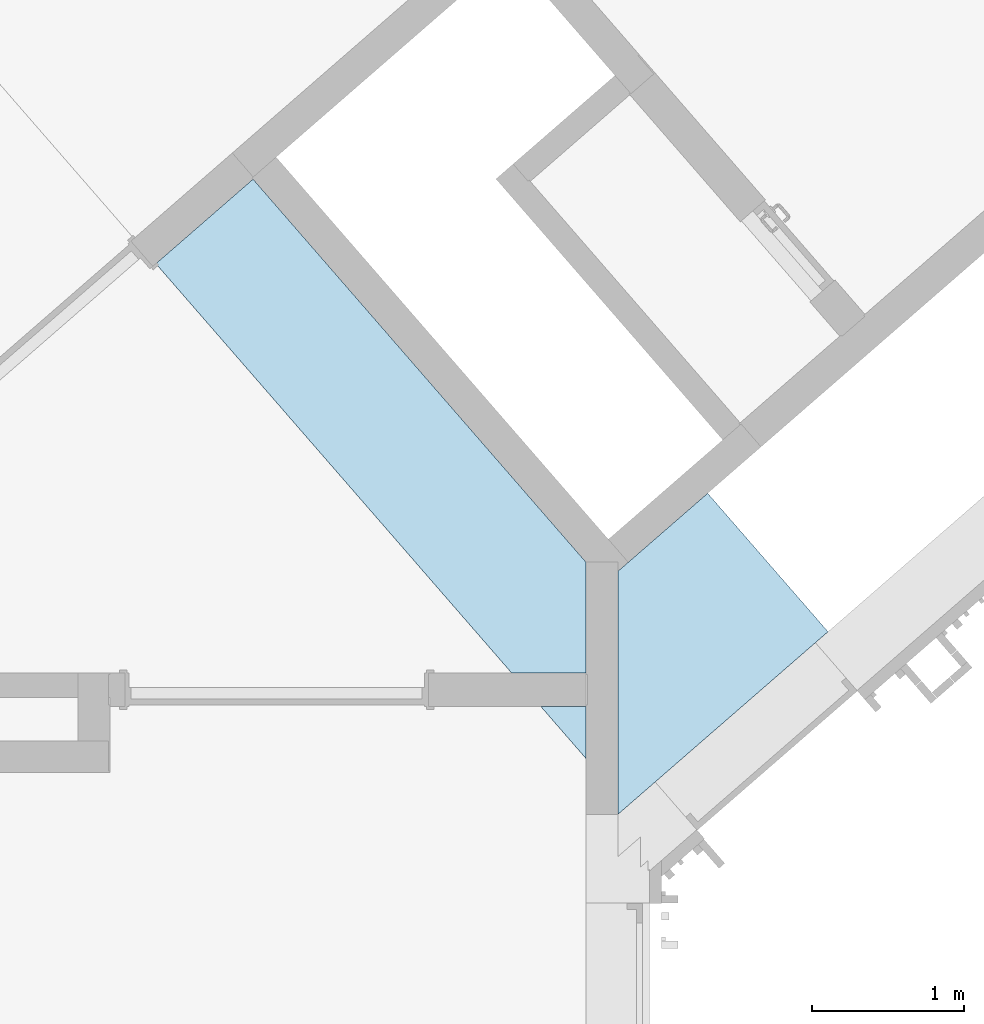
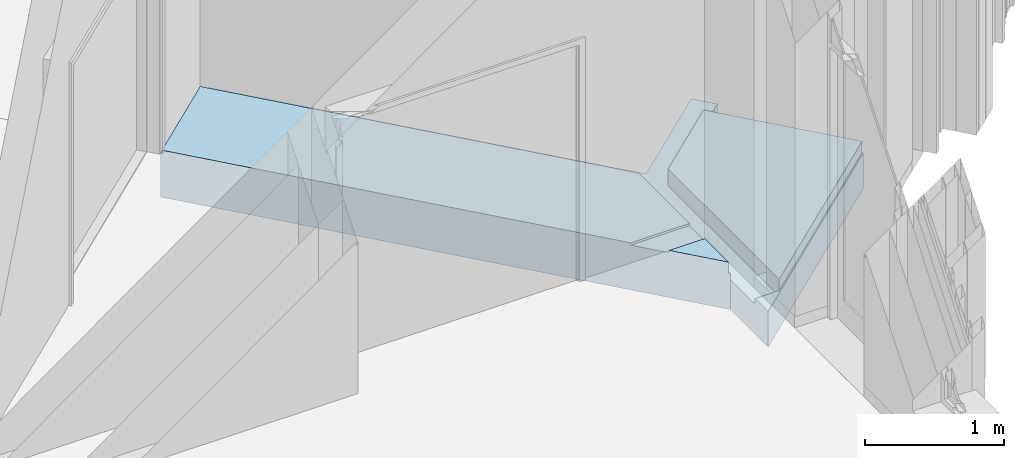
# One storey, part 79 of 390: 1 slab.
"""IFC2X3 building model written with IfcOpenShell, lengths in millimetres."""

from ifc_helpers import new_model, entity, si_unit, converted_unit, derived_unit, money_unit, direction, frame, origin_with_axes, place, context, subcontext, project, spatial, faceted_brep, material, material_list, type_object, element, save


model = new_model("IFC2X3")

# Units and contexts
model_context = context("Model", 3, precision=1e-05, world=origin_with_axes(), true_north=direction((0.0, 1.0)))
body_context = subcontext(model_context, "Body", "Model", "MODEL_VIEW")
ifc_project = project(units=[si_unit("LENGTHUNIT", "METRE", prefix="MILLI"), si_unit("AREAUNIT", "SQUARE_METRE"), si_unit("VOLUMEUNIT", "CUBIC_METRE"), converted_unit("PLANEANGLEUNIT", "DEGREE", entity("IfcPlaneAngleMeasure", 0.0174532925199), si_unit("PLANEANGLEUNIT", "RADIAN"), dimensions=[0, 0, 0, 0, 0, 0, 0]), si_unit("SOLIDANGLEUNIT", "STERADIAN"), money_unit("EUR"), converted_unit("TIMEUNIT", "Year", entity("IfcTimeMeasure", 31556926.0), si_unit("TIMEUNIT", "SECOND"), dimensions=[0, 0, 1, 0, 0, 0, 0]), si_unit("MASSUNIT", "GRAM", prefix="KILO"), si_unit("THERMODYNAMICTEMPERATUREUNIT", "DEGREE_CELSIUS"), si_unit("LUMINOUSINTENSITYUNIT", "LUMEN"), si_unit("ENERGYUNIT", "JOULE", prefix="MEGA"), derived_unit("THERMALCONDUCTANCEUNIT", [(si_unit("POWERUNIT", "WATT"), 1), (si_unit("LENGTHUNIT", "METRE"), -1), (si_unit("THERMODYNAMICTEMPERATUREUNIT", "KELVIN"), -1)]), derived_unit("SPECIFICHEATCAPACITYUNIT", [(si_unit("ENERGYUNIT", "JOULE"), 1), (si_unit("MASSUNIT", "GRAM", prefix="KILO"), -1), (si_unit("THERMODYNAMICTEMPERATUREUNIT", "KELVIN"), -1)]), derived_unit("MASSDENSITYUNIT", [(si_unit("MASSUNIT", "GRAM", prefix="KILO"), 1), (si_unit("VOLUMEUNIT", "CUBIC_METRE"), -1)])], contexts=[model_context])

# Site, building, storey
site_placement = place(None, origin_with_axes())
site = spatial("IfcSite", under=ifc_project, at=site_placement, Name="Site", CompositionType="ELEMENT")
building_placement = place(site_placement, origin_with_axes())
building = spatial("IfcBuilding", under=site, at=building_placement, Name="Building", CompositionType="ELEMENT")
storey_placement = place(building_placement, origin_with_axes())
storey = spatial("IfcBuildingStorey", under=building, at=storey_placement, Name="1 korrus", CompositionType="ELEMENT", Elevation=0.0)

# Slab
ifc_material_1 = material(Name="Puit - Põrand")
ifc_material_2 = material(Name="Betoon")
ifc_material_3 = material(Name="00_mineraalvillaplaat - jäik")
ifc_material_4 = material(Name="Soojustus - Plastik Kõva")
ifc_material_5 = material(Name="Raudbetoon - Konstruktsioon")
ifc_material_list = material_list([ifc_material_1, ifc_material_1, ifc_material_1, ifc_material_2, ifc_material_2, ifc_material_3, ifc_material_3, ifc_material_4, ifc_material_4, ifc_material_5])
slab_type = type_object("IfcSlabType", Name="VL-01", PredefinedType="FLOOR")
slab_placement = place(storey_placement, frame((136446.919916, 70227.5830388, 0.0), z_axis=(0.0, 0.0, 1.0), x_axis=(1.0, 0.0, 0.0)))
element("IfcSlab", 1, at=slab_placement, inside=storey, type_object=slab_type, material=ifc_material_list, Name="VL-01", PredefinedType="FLOOR", context=body_context, shape_type="Brep", body=[
    faceted_brep([(2843.07920907, -2927.40806166, -20.0), (2843.07920907, -2927.40806166, 0.0), (2843.07954199, -3270.58888407, 0.0), (2843.07954192, -3270.588884, -20.0), (2544.75700437, -2927.40806166, 0.0), (2544.75700437, -2927.40806166, -20.0)], [[[0, 1, 2, 3]], [[4, 1, 0, 5]], [[1, 4, 2]], [[4, 5, 3, 2]], [[5, 0, 3]]]),
    faceted_brep([(4356.26905452, -2506.96594326, 0.0), (4439.42658322, -2434.67829507, 0.0), (3645.5945413, -1521.47899265, 0.0), (3122.1126186, -1976.53488561, 0.0), (3053.07834611, -2036.54546315, 0.0), (3053.080466, -3639.80911052, 0.0), (3299.67504126, -3425.44797957, 0.0), (4439.42658322, -2434.67829507, -20.0), (3053.080466, -3639.80911052, -20.0), (3645.5945413, -1521.47899265, -20.0), (3122.1126186, -1976.53488561, -20.0), (3053.07834611, -2036.54546315, -20.0)], [[[0, 1, 2, 3, 4, 5, 6]], [[7, 1, 0, 6, 5, 8]], [[1, 7, 9, 2]], [[3, 2, 9, 10]], [[3, 10, 11, 4]], [[8, 5, 4, 11]], [[7, 8, 11, 10, 9]]]),
    faceted_brep([(647.735238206, 549.817535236, -20.0), (647.735238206, 549.817535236, 0.0), (2843.0782871, -1975.63575438, 0.0), (2843.0782871, -1975.63575438, -20.0), (6.56058390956, -7.54708846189, 0.0), (6.56058390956, -7.54708846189, -20.0), (2353.51392203, -2707.40806166, 0.0), (2843.07899596, -2707.40806166, 0.0), (2843.07899596, -2707.40806166, -20.0), (2353.51392203, -2707.40806166, -20.0)], [[[0, 1, 2, 3]], [[4, 1, 0, 5]], [[1, 4, 6, 7, 2]], [[7, 8, 3, 2]], [[5, 0, 3, 8, 9]], [[4, 5, 9, 6]], [[8, 7, 6, 9]]]),
    faceted_brep([(2843.07922025, -2917.40806166, -20.0), (2843.07902651, -2717.40806166, -20.0), (2843.0782871, -1975.63575438, -20.0), (641.174647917, 557.364631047, -20.0), (0.0, 0.0, -20.0), (2843.07954192, -3270.588884, -20.0), (2843.07954166, -3270.5888837, -100.0), (2843.0782871, -1975.63575438, -100.0), (641.174647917, 557.364631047, -100.0), (0.0, 0.0, -100.0)], [[[0, 1, 2, 3, 4, 5]], [[2, 1, 0, 5, 6, 7]], [[2, 7, 8, 3]], [[3, 8, 9, 4]], [[6, 5, 4, 9]], [[7, 6, 9, 8]]]),
    faceted_brep([(4439.42658322, -2434.67829507, -20.0), (3645.5945413, -1521.47899265, -20.0), (3122.1126186, -1976.53488561, -20.0), (3053.07834611, -2036.54546315, -20.0), (3053.080466, -3639.80911052, -20.0), (4439.42658322, -2434.67829507, -100.0), (3645.5945413, -1521.47899265, -100.0), (3122.1126186, -1976.53488561, -100.0), (3053.07834611, -2036.54546315, -100.0), (3053.080466, -3639.80911052, -100.0)], [[[0, 1, 2, 3, 4]], [[0, 5, 6, 1]], [[2, 1, 6, 7]], [[2, 7, 8, 3]], [[9, 4, 3, 8]], [[5, 0, 4, 9]], [[5, 9, 8, 7, 6]]]),
    faceted_brep([(2853.07955208, -3282.09257975, -100.0), (2853.0782871, -1975.63574469, -100.0), (2856.32840604, -1975.63574154, -100.0), (648.721743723, 563.925221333, -100.0), (0.0, 0.0, -100.0), (2853.07955221, -3282.0925799, -130.0), (2853.0782871, -1975.63574469, -130.0), (2856.32840604, -1975.63574154, -130.0), (648.721743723, 563.925221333, -130.0), (0.0, 0.0, -130.0)], [[[0, 1, 2, 3, 4]], [[1, 0, 5, 6]], [[7, 2, 1, 6]], [[2, 7, 8, 3]], [[3, 8, 9, 4]], [[5, 0, 4, 9]], [[6, 5, 9, 8, 7]]]),
    faceted_brep([(3645.5945413, -1521.47899265, -130.0), (3645.5945413, -1521.47899265, -100.0), (4445.98655504, -2442.22467941, -100.0), (4445.98655504, -2442.22467941, -130.0), (3122.1126186, -1976.53488561, -100.0), (3122.1126186, -1976.53488561, -130.0), (3053.07834611, -2036.54546315, -100.0), (3053.07989915, -3639.80960327, -99.9999991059), (2853.07989871, -3639.80979701, -99.9999991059), (2853.0800804, -3826.91715967, -100.0), (2853.0800804, -3826.91715967, -130.0), (2853.07989871, -3639.80979701, -130.0), (3053.07989915, -3639.80960327, -130.0), (3053.07834611, -2036.54546315, -130.0)], [[[0, 1, 2, 3]], [[4, 1, 0, 5]], [[1, 4, 6, 7, 8, 9, 2]], [[10, 3, 2, 9]], [[5, 0, 3, 10, 11, 12, 13]], [[4, 5, 13, 6]], [[6, 13, 12, 7]], [[8, 7, 12, 11]], [[8, 11, 10, 9]]]),
    faceted_brep([(2853.07955221, -3282.0925799, -130.0), (2853.0782871, -1975.63574469, -130.0), (2856.32840604, -1975.63574154, -130.0), (648.721743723, 563.925221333, -130.0), (0.0, 0.0, -130.0), (2853.07955229, -3282.09257999, -150.0), (2853.0782871, -1975.63574469, -150.0), (2856.32840604, -1975.63574154, -150.0), (648.721743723, 563.925221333, -150.0), (0.0, 0.0, -150.0)], [[[0, 1, 2, 3, 4]], [[1, 0, 5, 6]], [[7, 2, 1, 6]], [[2, 7, 8, 3]], [[3, 8, 9, 4]], [[5, 0, 4, 9]], [[6, 5, 9, 8, 7]]]),
    faceted_brep([(3645.5945413, -1521.47899265, -150.0), (3645.5945413, -1521.47899265, -130.0), (4445.98655504, -2442.22467941, -130.0), (4445.98655504, -2442.22467941, -150.0), (3122.1126186, -1976.53488561, -130.0), (3122.1126186, -1976.53488561, -150.0), (3053.07834611, -2036.54546315, -130.0), (3053.07989915, -3639.80960327, -130.0), (2853.07989871, -3639.80979701, -130.0), (2853.0800804, -3826.91715967, -130.0), (2853.0800804, -3826.91715967, -150.0), (2853.07989871, -3639.80979701, -150.0), (3053.07989915, -3639.80960327, -150.0), (3053.07834611, -2036.54546315, -150.0)], [[[0, 1, 2, 3]], [[4, 1, 0, 5]], [[1, 4, 6, 7, 8, 9, 2]], [[10, 3, 2, 9]], [[5, 0, 3, 10, 11, 12, 13]], [[4, 5, 13, 6]], [[6, 13, 12, 7]], [[8, 7, 12, 11]], [[8, 11, 10, 9]]]),
    faceted_brep([(0.0, 0.0, -150.0), (0.0, 0.0, -415.0), (2853.07955264, -3282.0925804, -415.0), (2853.07955264, -3282.0925804, -150.0), (799.663659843, 695.137027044, -150.0), (799.663659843, 695.137027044, -415.0), (2990.90081278, -1825.59296958, -415.0), (3745.6103965, -1169.53393744, -415.0), (3876.82220219, -1320.47585358, -415.0), (3645.59454005, -1521.47899121, -415.0), (4445.98655504, -2442.22467941, -415.0), (2853.0800804, -3826.91715967, -415.0), (2853.0800804, -3826.91715967, -150.0), (4445.98655504, -2442.22467941, -150.0), (3645.59454005, -1521.47899121, -150.0), (3876.82220219, -1320.47585358, -150.0), (3745.6103965, -1169.53393744, -150.0), (2990.90081278, -1825.59296958, -150.0)], [[[0, 1, 2, 3]], [[4, 5, 1, 0]], [[2, 1, 5, 6, 7, 8, 9, 10, 11]], [[3, 2, 11, 12]], [[4, 0, 3, 12, 13, 14, 15, 16, 17]], [[17, 6, 5, 4]], [[16, 7, 6, 17]], [[15, 8, 7, 16]], [[14, 9, 8, 15]], [[13, 10, 9, 14]], [[12, 11, 10, 13]]]),
])

save(model, "model.ifc")
